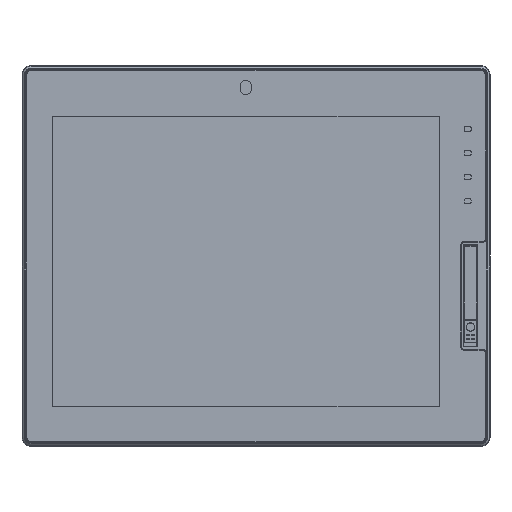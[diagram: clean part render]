
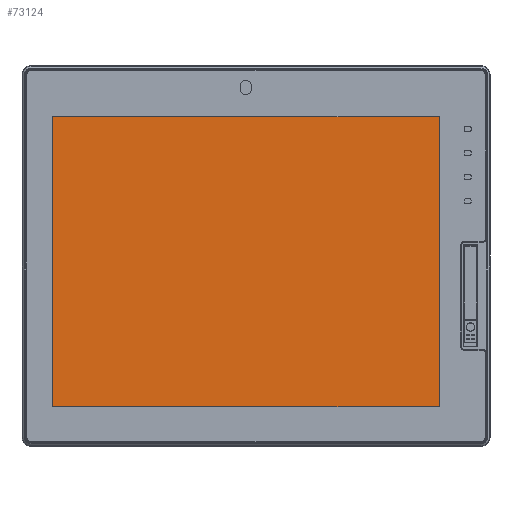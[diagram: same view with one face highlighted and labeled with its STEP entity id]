
A CAD part, top view. The second image highlights one B-rep face of the part: STEP entity #73124.
In plain terms, the highlighted planar face has unit normal (0, 0, 1).
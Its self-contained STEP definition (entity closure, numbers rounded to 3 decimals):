
#5511=DIRECTION('',(0.,1.,0.));
#5512=VECTOR('',#5511,229.096);
#5513=CARTESIAN_POINT('',(-160.564,-119.048,5.5));
#5514=LINE('',#5513,#5512);
#5515=DIRECTION('',(1.,0.,0.));
#5516=VECTOR('',#5515,305.128);
#5517=CARTESIAN_POINT('',(-160.564,110.048,5.5));
#5518=LINE('',#5517,#5516);
#5519=DIRECTION('',(0.,-1.,0.));
#5520=VECTOR('',#5519,229.096);
#5521=CARTESIAN_POINT('',(144.564,110.048,5.5));
#5522=LINE('',#5521,#5520);
#5523=DIRECTION('',(-1.,0.,0.));
#5524=VECTOR('',#5523,305.128);
#5525=CARTESIAN_POINT('',(144.564,-119.048,5.5));
#5526=LINE('',#5525,#5524);
#59134=CARTESIAN_POINT('',(-160.564,-119.048,5.5));
#59135=CARTESIAN_POINT('',(-160.564,110.048,5.5));
#59136=VERTEX_POINT('',#59134);
#59137=VERTEX_POINT('',#59135);
#59138=CARTESIAN_POINT('',(144.564,110.048,5.5));
#59139=VERTEX_POINT('',#59138);
#59140=CARTESIAN_POINT('',(144.564,-119.048,5.5));
#59141=VERTEX_POINT('',#59140);
#73113=CARTESIAN_POINT('',(0.,0.,5.5));
#73114=DIRECTION('',(0.,0.,1.));
#73115=DIRECTION('',(1.,0.,0.));
#73116=AXIS2_PLACEMENT_3D('',#73113,#73114,#73115);
#73117=PLANE('',#73116);
#73118=ORIENTED_EDGE('',*,*,#73064,.T.);
#73119=ORIENTED_EDGE('',*,*,#73081,.T.);
#73120=ORIENTED_EDGE('',*,*,#73093,.T.);
#73121=ORIENTED_EDGE('',*,*,#73106,.T.);
#73122=EDGE_LOOP('',(#73118,#73119,#73120,#73121));
#73123=FACE_OUTER_BOUND('',#73122,.F.);
#73124=ADVANCED_FACE('',(#73123),#73117,.T.);
#73064=EDGE_CURVE('',#59136,#59137,#5514,.T.);
#73081=EDGE_CURVE('',#59137,#59139,#5518,.T.);
#73093=EDGE_CURVE('',#59139,#59141,#5522,.T.);
#73106=EDGE_CURVE('',#59141,#59136,#5526,.T.);
